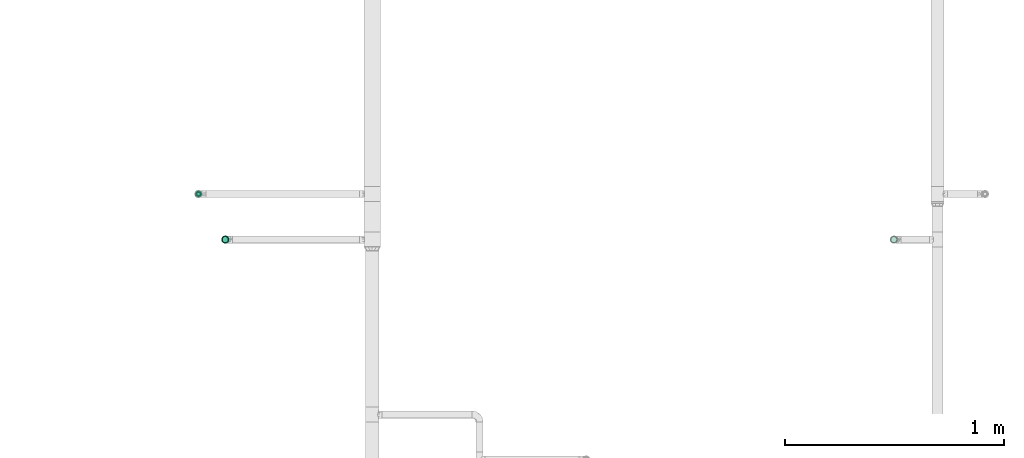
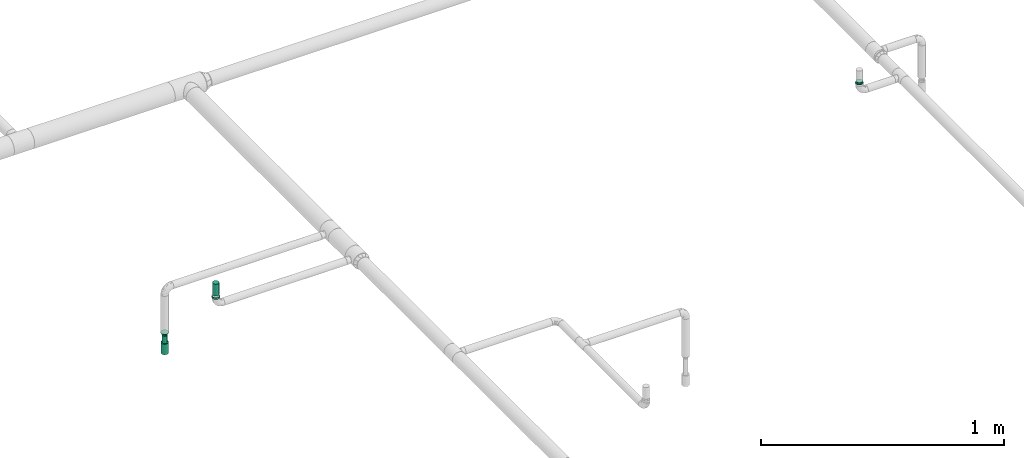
# One storey, part 31 of 43: 2 flow fittings, 2 flow segments, 2 flow terminals.
"""IFC2X3 building model written with IfcOpenShell, lengths in millimetres."""

from ifc_helpers import new_model, entity, si_unit, converted_unit, derived_unit, direction, frame, origin_with_axes, origin_2d_with_axis, place, context, subcontext, project, spatial, hollow_circle, extrude, open_shell, surface_model, source, transform, mapped, type_object, element, save


model = new_model("IFC2X3")

# Units and contexts
model_context = context("Model", 3, precision=0.01, world=frame((0.0, 4.29681676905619e-09, 0.0)), true_north=direction((4.01073788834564e-13, 1.0)))
plan_context = context("Plan", 3, precision=0.01, world=frame((0.0, 4.29681676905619e-09, 0.0)), true_north=direction((4.01073788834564e-13, 1.0)))
body_context = subcontext(model_context, "Body", "Model", "MODEL_VIEW")
ifc_project = project(units=[converted_unit("PLANEANGLEUNIT", "DEGREE", entity("IfcPositiveLengthMeasure", 0.0174532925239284), si_unit("PLANEANGLEUNIT", "RADIAN"), dimensions=[0, 0, 0, 0, 0, 0, 0]), si_unit("AREAUNIT", "SQUARE_METRE"), si_unit("LENGTHUNIT", "METRE", prefix="MILLI"), si_unit("MASSUNIT", "GRAM", prefix="KILO"), si_unit("POWERUNIT", "WATT"), si_unit("PRESSUREUNIT", "PASCAL"), si_unit("FORCEUNIT", "NEWTON", prefix="KILO"), si_unit("ELECTRICVOLTAGEUNIT", "VOLT"), si_unit("ELECTRICCURRENTUNIT", "AMPERE"), si_unit("THERMODYNAMICTEMPERATUREUNIT", "DEGREE_CELSIUS"), si_unit("TIMEUNIT", "SECOND"), si_unit("VOLUMEUNIT", "CUBIC_METRE"), derived_unit("LINEARVELOCITYUNIT", [(si_unit("LENGTHUNIT", "METRE"), 1), (si_unit("TIMEUNIT", "SECOND"), -1)]), derived_unit("VOLUMETRICFLOWRATEUNIT", [(si_unit("VOLUMEUNIT", "CUBIC_METRE"), 1), (si_unit("TIMEUNIT", "SECOND"), -1)]), derived_unit("THERMALTRANSMITTANCEUNIT", [(si_unit("POWERUNIT", "WATT"), 1), (si_unit("THERMODYNAMICTEMPERATUREUNIT", "KELVIN"), -1), (si_unit("AREAUNIT", "SQUARE_METRE"), -1)]), derived_unit("SOUNDPRESSUREUNIT", [(si_unit("PRESSUREUNIT", "PASCAL"), 1)])], contexts=[model_context, plan_context])

# Site, building, storey
site_placement = place(None, frame((0.0, -4.29681676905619e-09, 0.0), z_axis=(0.0, 0.0, 1.0), x_axis=(1.0, 0.0, 0.0)))
site = spatial("IfcSite", under=ifc_project, at=site_placement, CompositionType="ELEMENT")
building_placement = place(site_placement, frame((0.0, 4.29681676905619e-09, 0.0), z_axis=(0.0, 0.0, 1.0), x_axis=(1.0, 0.0, 0.0)))
building = spatial("IfcBuilding", under=site, at=building_placement, Name="mc-building", CompositionType="ELEMENT")
storey_placement = place(building_placement, frame((0.0, 0.0, 210900.0), z_axis=(0.0, 0.0, 1.0), x_axis=(1.0, 0.0, 0.0)))
storey = spatial("IfcBuildingStorey", under=building, at=storey_placement, Name="Nivå F", CompositionType="ELEMENT", Elevation=210900.0)

# Flow fittings
pipe_fitting_type = type_object("IfcPipeFittingType", Name="magi_pipe_fe_reducer_centric_short_NOR", PredefinedType="TRANSITION")
shared_shape_1 = source(origin_with_axes(), body_context, "Body", "SurfaceModel", [
    surface_model("IfcShellBasedSurfaceModel", [(-2.0, 11.9501, 11.9501), (-2.0, 0.0, 16.9), (-2.0, 4.37404, 16.32415), (-2.0, 8.45, 14.63583), (-2.0, 14.63583, 8.45), (-2.0, 16.32415, 4.37404), (-2.0, -16.32415, 4.37404), (-2.0, -8.45, 14.63583), (-2.0, -14.63583, 8.45), (-2.0, -11.9501, 11.9501), (-2.0, -4.37404, 16.32415), (-2.0, -16.32415, -4.37404), (-2.0, -16.9, 0.0), (-2.0, -8.45, -14.63583), (-2.0, 16.32415, -4.37404), (-2.0, 11.9501, -11.9501), (-2.0, 14.63583, -8.45), (-2.0, 8.45, -14.63583), (-2.0, 4.37404, -16.32415), (-2.0, 0.0, -16.9), (-2.0, -11.9501, -11.9501), (-2.0, -14.63583, -8.45), (-2.0, -4.37404, -16.32415), (-2.0, 16.9, 0.0), (0.0, 4.37404, -16.32415), (0.0, 8.45, -14.63583), (0.0, 11.9501, -11.9501), (0.0, 0.0, -16.9), (0.0, 16.32415, -4.37404), (0.0, 16.32415, 4.37404), (0.0, 14.63583, -8.45), (0.0, -8.45, -14.63583), (0.0, -4.37404, -16.32415), (0.0, -11.9501, -11.9501), (0.0, -16.32415, -4.37404), (0.0, -14.63583, -8.45), (0.0, -16.32415, 4.37404), (0.0, 16.9, 0.0), (0.0, 14.63583, 8.45), (0.0, 11.9501, 11.9501), (0.0, 4.37404, 16.32415), (0.0, 8.45, 14.63583), (0.0, 0.0, 16.9), (0.0, -14.63583, 8.45), (0.0, -16.9, 0.0), (0.0, -8.45, 14.63583), (0.0, -11.9501, 11.9501), (0.0, -4.37404, 16.32415), (9.0, 12.94341, -3.46818), (9.0, 3.46818, -12.94341), (9.0, 6.7, -11.60474), (9.0, 9.47523, -9.47523), (9.0, -6.7, -11.60474), (9.0, -12.94341, 3.46818), (9.0, 11.60474, -6.7), (9.0, 0.0, -13.4), (9.0, -3.46818, -12.94341), (9.0, -9.47523, -9.47523), (9.0, -12.94341, -3.46818), (9.0, -11.60474, -6.7), (9.0, 13.4, 0.0), (9.0, 12.94341, 3.46818), (9.0, 11.60474, 6.7), (9.0, 9.47523, 9.47523), (9.0, 0.0, 13.4), (9.0, 6.7, 11.60474), (9.0, 3.46818, 12.94341), (9.0, -6.7, 11.60474), (9.0, -9.47523, 9.47523), (9.0, -11.60474, 6.7), (9.0, -13.4, 0.0), (9.0, -3.46818, 12.94341), (7.0, 0.0, 13.4), (7.0, 3.46818, 12.94341), (7.0, 6.7, 11.60474), (7.0, -3.46818, 12.94341), (7.0, 9.47523, 9.47523), (7.0, 11.60474, 6.7), (7.0, 12.94341, 3.46818), (7.0, -12.94341, 3.46818), (7.0, -9.47523, 9.47523), (7.0, -6.7, 11.60474), (7.0, -11.60474, 6.7), (7.0, -12.94341, -3.46818), (7.0, -13.4, 0.0), (7.0, -6.7, -11.60474), (7.0, 12.94341, -3.46818), (7.0, 9.47523, -9.47523), (7.0, 11.60474, -6.7), (7.0, 6.7, -11.60474), (7.0, 3.46818, -12.94341), (7.0, -9.47523, -9.47523), (7.0, -11.60474, -6.7), (7.0, 0.0, -13.4), (7.0, -3.46818, -12.94341), (7.0, 13.4, 0.0), (0.0, 13.18758, -8.96258), (0.0, 14.42505, -5.97505), (7.0, 10.491, -7.02294), (7.0, 11.50677, -4.57065), (0.0, 15.66253, -2.98753), (7.0, 12.45339, -2.28533), (0.0, 2.98753, -15.66253), (0.0, 5.97505, -14.42505), (0.0, 8.96258, -13.18758), (7.0, 4.73762, -11.43761), (7.0, 7.10642, -10.45642), (7.0, 2.36881, -12.41881), (0.0, -14.42505, -5.97505), (7.0, -11.43761, -4.73762), (7.0, -12.41881, -2.36881), (7.0, -2.36881, -12.41881), (7.0, -10.45642, -7.10642), (0.0, -15.70614, -2.88224), (0.0, -13.18758, -8.96258), (7.0, -4.73762, -11.43761), (7.0, -7.10642, -10.45642), (0.0, -5.97505, -14.42505), (0.0, -2.98753, -15.66253), (0.0, -8.96258, -13.18758), (0.0, -13.18758, 8.96258), (0.0, -14.42505, 5.97505), (7.0, -10.491, 7.02294), (7.0, -11.50677, 4.57065), (0.0, -15.66253, 2.98753), (7.0, -12.45339, 2.28533), (0.0, -2.98753, 15.66253), (0.0, -5.97505, 14.42505), (0.0, -8.96258, 13.18758), (7.0, -4.73762, 11.43761), (7.0, -7.10642, 10.45642), (7.0, -2.36881, 12.41881), (0.0, 14.42505, 5.97505), (7.0, 11.43761, 4.73762), (7.0, 12.41881, 2.36881), (7.0, 2.36881, 12.41881), (7.0, 10.45642, 7.10642), (0.0, 15.70614, 2.88224), (0.0, 13.18758, 8.96258), (7.0, 4.73762, 11.43761), (7.0, 7.10642, 10.45642), (0.0, 5.97505, 14.42505), (0.0, 2.98753, 15.66253), (0.0, 8.96258, 13.18758)], [open_shell([[[0, 1, 2]], [[0, 2, 3]], [[0, 4, 5]], [[0, 5, 1]], [[1, 5, 6]], [[7, 8, 9]], [[7, 10, 1]], [[8, 7, 1]], [[1, 6, 8]], [[6, 11, 12]], [[6, 5, 13]], [[5, 14, 15]], [[15, 14, 16]], [[15, 17, 18]], [[13, 5, 15]], [[19, 15, 18]], [[11, 20, 21]], [[20, 11, 13]], [[13, 19, 22]], [[11, 6, 13]], [[15, 19, 13]], [[5, 23, 14]], [[24, 25, 26]], [[27, 24, 26]], [[26, 28, 29]], [[28, 26, 30]], [[26, 29, 31]], [[27, 31, 32]], [[27, 26, 31]], [[33, 34, 35]], [[34, 33, 31]], [[31, 36, 34]], [[29, 28, 37]], [[29, 38, 39]], [[29, 39, 40]], [[40, 36, 31]], [[40, 39, 41]], [[36, 40, 42]], [[42, 43, 36]], [[44, 34, 36]], [[43, 45, 46]], [[43, 42, 45]], [[45, 42, 47]], [[31, 29, 40]], [[11, 34, 12]], [[21, 35, 11]], [[31, 20, 13]], [[21, 20, 33]], [[32, 13, 22]], [[11, 35, 34]], [[34, 44, 12]], [[32, 31, 13]], [[33, 20, 31]], [[33, 35, 21]], [[27, 32, 22]], [[22, 19, 27]], [[18, 24, 19]], [[17, 25, 18]], [[30, 15, 16]], [[17, 15, 26]], [[28, 16, 14]], [[17, 26, 25]], [[25, 24, 18]], [[37, 28, 14]], [[30, 16, 28]], [[30, 26, 15]], [[23, 37, 14]], [[19, 24, 27]], [[5, 29, 23]], [[4, 38, 5]], [[41, 0, 3]], [[4, 0, 39]], [[40, 3, 2]], [[5, 38, 29]], [[29, 37, 23]], [[40, 41, 3]], [[39, 0, 41]], [[39, 38, 4]], [[42, 40, 2]], [[2, 1, 42]], [[10, 47, 1]], [[7, 45, 10]], [[43, 9, 8]], [[7, 9, 46]], [[36, 8, 6]], [[7, 46, 45]], [[45, 47, 10]], [[44, 36, 6]], [[43, 8, 36]], [[43, 46, 9]], [[12, 44, 6]], [[1, 47, 42]], [[33, 44, 27]], [[42, 39, 46]], [[39, 27, 44]], [[44, 46, 39]], [[48, 49, 50]], [[48, 50, 51]], [[52, 49, 53]], [[48, 51, 54]], [[49, 48, 53]], [[55, 52, 56]], [[55, 49, 52]], [[57, 58, 59]], [[53, 58, 57]], [[57, 52, 53]], [[48, 60, 53]], [[61, 62, 63]], [[61, 63, 64]], [[65, 66, 64]], [[65, 64, 63]], [[61, 64, 67]], [[53, 68, 69]], [[70, 58, 53]], [[53, 67, 68]], [[53, 61, 67]], [[71, 67, 64]], [[53, 60, 61]], [[72, 73, 74]], [[75, 72, 74]], [[76, 77, 78]], [[74, 76, 75]], [[78, 79, 76]], [[75, 80, 81]], [[80, 75, 79]], [[80, 79, 82]], [[75, 76, 79]], [[79, 83, 84]], [[79, 78, 85]], [[86, 87, 78]], [[87, 86, 88]], [[89, 85, 78]], [[78, 87, 89]], [[85, 89, 90]], [[83, 91, 92]], [[83, 79, 91]], [[85, 93, 94]], [[79, 85, 91]], [[90, 93, 85]], [[95, 86, 78]], [[83, 58, 84]], [[92, 59, 83]], [[52, 91, 85]], [[92, 91, 57]], [[56, 85, 94]], [[83, 59, 58]], [[58, 70, 84]], [[56, 52, 85]], [[57, 91, 52]], [[57, 59, 92]], [[55, 56, 94]], [[94, 93, 55]], [[90, 49, 93]], [[89, 50, 90]], [[54, 87, 88]], [[89, 87, 51]], [[48, 88, 86]], [[89, 51, 50]], [[50, 49, 90]], [[60, 48, 86]], [[54, 88, 48]], [[54, 51, 87]], [[95, 60, 86]], [[93, 49, 55]], [[78, 61, 95]], [[77, 62, 78]], [[65, 76, 74]], [[77, 76, 63]], [[66, 74, 73]], [[78, 62, 61]], [[61, 60, 95]], [[66, 65, 74]], [[63, 76, 65]], [[63, 62, 77]], [[64, 66, 73]], [[73, 72, 64]], [[75, 71, 72]], [[81, 67, 75]], [[69, 80, 82]], [[81, 80, 68]], [[53, 82, 79]], [[81, 68, 67]], [[67, 71, 75]], [[70, 53, 79]], [[69, 82, 53]], [[69, 68, 80]], [[84, 70, 79]], [[72, 71, 64]], [[72, 80, 95]], [[95, 76, 72]], [[80, 91, 95]], [[91, 93, 95]], [[87, 95, 93]], [[80, 84, 91]], [[26, 27, 39]], [[39, 37, 26]], [[96, 97, 98]], [[99, 100, 101]], [[37, 95, 101]], [[93, 27, 102]], [[103, 104, 105]], [[104, 26, 106]], [[87, 26, 96]], [[103, 107, 102]], [[108, 109, 110]], [[37, 101, 100]], [[27, 93, 111]], [[112, 33, 91]], [[110, 84, 113]], [[109, 114, 112]], [[33, 112, 114]], [[115, 116, 117]], [[115, 118, 111]], [[93, 102, 107]], [[116, 91, 119]], [[27, 111, 118]], [[97, 99, 98]], [[87, 96, 98]], [[100, 99, 97]], [[26, 87, 106]], [[105, 104, 106]], [[107, 103, 105]], [[84, 44, 113]], [[108, 110, 113]], [[114, 109, 108]], [[91, 33, 119]], [[117, 116, 119]], [[118, 115, 117]], [[120, 121, 122]], [[123, 124, 125]], [[44, 84, 125]], [[72, 42, 126]], [[127, 128, 129]], [[128, 46, 130]], [[80, 46, 120]], [[127, 131, 126]], [[132, 133, 134]], [[44, 125, 124]], [[42, 72, 135]], [[136, 39, 76]], [[134, 95, 137]], [[133, 138, 136]], [[39, 136, 138]], [[139, 140, 141]], [[139, 142, 135]], [[72, 126, 131]], [[140, 76, 143]], [[42, 135, 142]], [[121, 123, 122]], [[80, 120, 122]], [[124, 123, 121]], [[46, 80, 130]], [[129, 128, 130]], [[131, 127, 129]], [[95, 37, 137]], [[132, 134, 137]], [[138, 133, 132]], [[76, 39, 143]], [[141, 140, 143]], [[142, 139, 141]]])]),
])
flow_fitting_1_placement = place(storey_placement, frame((610166.97608, 695825.22261, 2702.99278), z_axis=(-0.996846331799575, 0.0788420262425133, 0.00901807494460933), x_axis=(0.00899000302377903, -0.00071100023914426, 0.999959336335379)))
element("IfcFlowFitting", 1, at=flow_fitting_1_placement, inside=storey, type_object=pipe_fitting_type, Name="magi_pipe_fe_reducer_centric_short_NOR", context=body_context, shape_type="MappedRepresentation", body=[
    mapped(shared_shape_1, transform((0.0, 0.0, 0.0), scale=1.0)),
])
shared_shape_2 = source(origin_with_axes(), body_context, "Body", "SurfaceModel", [
    surface_model("IfcShellBasedSurfaceModel", [(14.4, 5.35, -9.26647), (14.4, 0.0, -10.7), (14.4, 2.76936, -10.33541), (14.4, 10.33541, -2.76936), (14.4, 7.56604, -7.56604), (14.4, -5.35, -9.26647), (14.4, 9.26647, -5.35), (14.4, -9.26647, 5.35), (14.4, -2.76936, -10.33541), (14.4, -7.56604, -7.56604), (14.4, -10.33541, -2.76936), (14.4, -9.26647, -5.35), (14.4, 10.33541, 2.76936), (14.4, 10.7, 0.0), (14.4, 9.26647, 5.35), (14.4, 7.56604, 7.56604), (14.4, 2.76936, 10.33541), (14.4, 0.0, 10.7), (14.4, 5.35, 9.26647), (14.4, -10.33541, 2.76936), (14.4, -10.7, 0.0), (14.4, -7.56604, 7.56604), (14.4, -2.76936, 10.33541), (14.4, -5.35, 9.26647), (12.4, 0.0, 10.7), (12.4, 2.76936, 10.33541), (12.4, 5.35, 9.26647), (12.4, 7.56604, 7.56604), (12.4, 9.26647, 5.35), (12.4, 10.33541, 2.76936), (12.4, -10.33541, 2.76936), (12.4, 10.33541, -2.76936), (12.4, -2.76936, 10.33541), (12.4, -7.56604, 7.56604), (12.4, -5.35, 9.26647), (12.4, -9.26647, 5.35), (12.4, -10.33541, -2.76936), (12.4, -10.7, 0.0), (12.4, 2.76936, -10.33541), (12.4, 9.26647, -5.35), (12.4, 7.56604, -7.56604), (12.4, 5.35, -9.26647), (12.4, -7.56604, -7.56604), (12.4, -9.26647, -5.35), (12.4, -5.35, -9.26647), (12.4, 0.0, -10.7), (12.4, -2.76936, -10.33541), (12.4, 10.7, 0.0), (-2.0, 11.9501, 11.9501), (-2.0, 0.0, 16.9), (-2.0, 4.37404, 16.32415), (-2.0, 8.45, 14.63583), (-2.0, 14.63583, 8.45), (-2.0, 16.32415, 4.37404), (-2.0, -16.32415, 4.37404), (-2.0, -8.45, 14.63583), (-2.0, -14.63583, 8.45), (-2.0, -11.9501, 11.9501), (-2.0, -4.37404, 16.32415), (-2.0, -16.32415, -4.37404), (-2.0, -16.9, 0.0), (-2.0, -8.45, -14.63583), (-2.0, 16.32415, -4.37404), (-2.0, 11.9501, -11.9501), (-2.0, 14.63583, -8.45), (-2.0, 8.45, -14.63583), (-2.0, 4.37404, -16.32415), (-2.0, 0.0, -16.9), (-2.0, -11.9501, -11.9501), (-2.0, -14.63583, -8.45), (-2.0, -4.37404, -16.32415), (-2.0, 16.9, 0.0), (0.0, 4.37404, -16.32415), (0.0, 8.45, -14.63583), (0.0, 11.9501, -11.9501), (0.0, 0.0, -16.9), (0.0, 16.32415, -4.37404), (0.0, 16.32415, 4.37404), (0.0, 14.63583, -8.45), (0.0, -8.45, -14.63583), (0.0, -4.37404, -16.32415), (0.0, -11.9501, -11.9501), (0.0, -16.32415, -4.37404), (0.0, -14.63583, -8.45), (0.0, -16.32415, 4.37404), (0.0, 16.9, 0.0), (0.0, 14.63583, 8.45), (0.0, 11.9501, 11.9501), (0.0, 4.37404, 16.32415), (0.0, 8.45, 14.63583), (0.0, 0.0, 16.9), (0.0, -14.63583, 8.45), (0.0, -16.9, 0.0), (0.0, -8.45, 14.63583), (0.0, -11.9501, 11.9501), (0.0, -4.37404, 16.32415), (12.4, 9.3625, -2.31662), (0.0, 14.42505, -5.97505), (0.0, 15.66253, -2.98753), (12.4, -6.6875, -6.94985), (0.0, -13.18758, -8.96258), (0.0, 2.98753, -15.66253), (12.4, 0.0, -9.26647), (12.4, 6.6875, -6.94985), (0.0, 8.96258, -13.18758), (12.4, -9.3625, -2.31662), (0.0, -15.66253, -2.98753), (0.0, -14.42505, -5.97505), (0.0, 5.97505, -14.42505), (0.0, -2.98753, -15.66253), (0.0, -8.96258, -13.18758), (0.0, 13.18758, -8.96258), (12.4, 8.025, -4.63324), (12.4, -2.675, -9.26647), (12.4, 2.675, -9.26647), (0.0, -5.97505, -14.42505), (12.4, -8.025, -4.63324), (12.4, -9.3625, 2.31662), (0.0, -14.42505, 5.97505), (0.0, -15.66253, 2.98753), (12.4, 6.6875, 6.94985), (0.0, 13.18758, 8.96258), (0.0, -2.98753, 15.66253), (12.4, 0.0, 9.26647), (12.4, -6.6875, 6.94985), (0.0, -8.96258, 13.18758), (12.4, 9.3625, 2.31662), (0.0, 15.66253, 2.98753), (0.0, 14.42505, 5.97505), (0.0, -5.97505, 14.42505), (0.0, 2.98753, 15.66253), (0.0, 8.96258, 13.18758), (0.0, -13.18758, 8.96258), (12.4, -8.025, 4.63324), (12.4, 2.675, 9.26647), (12.4, -2.675, 9.26647), (0.0, 5.97505, 14.42505), (12.4, 8.025, 4.63324)], [open_shell([[[0, 1, 2]], [[3, 0, 4]], [[5, 0, 3]], [[3, 4, 6]], [[7, 5, 3]], [[1, 5, 8]], [[1, 0, 5]], [[9, 10, 11]], [[10, 9, 5]], [[5, 7, 10]], [[12, 3, 13]], [[12, 14, 15]], [[3, 15, 7]], [[16, 17, 15]], [[16, 15, 18]], [[7, 15, 17]], [[10, 19, 20]], [[7, 19, 10]], [[21, 22, 23]], [[22, 21, 7]], [[17, 22, 7]], [[3, 12, 15]], [[24, 25, 26]], [[24, 26, 27]], [[27, 28, 29]], [[24, 27, 30]], [[31, 30, 27]], [[32, 33, 34]], [[33, 32, 30]], [[33, 30, 35]], [[32, 24, 30]], [[30, 36, 37]], [[31, 27, 29]], [[36, 30, 31]], [[38, 31, 39]], [[40, 41, 38]], [[40, 38, 39]], [[36, 31, 38]], [[36, 42, 43]], [[42, 36, 44]], [[44, 45, 46]], [[44, 36, 38]], [[38, 45, 44]], [[31, 29, 47]], [[36, 10, 37]], [[43, 11, 36]], [[5, 42, 44]], [[43, 42, 9]], [[8, 44, 46]], [[36, 11, 10]], [[10, 20, 37]], [[8, 5, 44]], [[9, 42, 5]], [[9, 11, 43]], [[1, 8, 46]], [[46, 45, 1]], [[38, 2, 45]], [[41, 0, 38]], [[6, 40, 39]], [[41, 40, 4]], [[3, 39, 31]], [[41, 4, 0]], [[0, 2, 38]], [[13, 3, 31]], [[6, 39, 3]], [[6, 4, 40]], [[47, 13, 31]], [[45, 2, 1]], [[29, 12, 47]], [[28, 14, 29]], [[18, 27, 26]], [[28, 27, 15]], [[16, 26, 25]], [[29, 14, 12]], [[12, 13, 47]], [[16, 18, 26]], [[15, 27, 18]], [[15, 14, 28]], [[17, 16, 25]], [[25, 24, 17]], [[32, 22, 24]], [[34, 23, 32]], [[7, 33, 35]], [[34, 33, 21]], [[19, 35, 30]], [[34, 21, 23]], [[23, 22, 32]], [[20, 19, 30]], [[7, 35, 19]], [[7, 21, 33]], [[37, 20, 30]], [[24, 22, 17]], [[48, 49, 50]], [[48, 50, 51]], [[48, 52, 53]], [[48, 53, 49]], [[49, 53, 54]], [[55, 56, 57]], [[55, 58, 49]], [[56, 55, 49]], [[49, 54, 56]], [[54, 59, 60]], [[54, 53, 61]], [[53, 62, 63]], [[63, 62, 64]], [[63, 65, 66]], [[61, 53, 63]], [[67, 63, 66]], [[59, 68, 69]], [[68, 59, 61]], [[61, 67, 70]], [[59, 54, 61]], [[63, 67, 61]], [[53, 71, 62]], [[72, 73, 74]], [[75, 72, 74]], [[74, 76, 77]], [[76, 74, 78]], [[74, 77, 79]], [[75, 79, 80]], [[75, 74, 79]], [[81, 82, 83]], [[82, 81, 79]], [[79, 84, 82]], [[77, 76, 85]], [[77, 86, 87]], [[77, 87, 88]], [[88, 84, 79]], [[88, 87, 89]], [[84, 88, 90]], [[90, 91, 84]], [[92, 82, 84]], [[91, 93, 94]], [[91, 90, 93]], [[93, 90, 95]], [[79, 77, 88]], [[59, 82, 60]], [[69, 83, 59]], [[79, 68, 61]], [[69, 68, 81]], [[80, 61, 70]], [[59, 83, 82]], [[82, 92, 60]], [[80, 79, 61]], [[81, 68, 79]], [[81, 83, 69]], [[75, 80, 70]], [[70, 67, 75]], [[66, 72, 67]], [[65, 73, 66]], [[78, 63, 64]], [[65, 63, 74]], [[76, 64, 62]], [[65, 74, 73]], [[73, 72, 66]], [[85, 76, 62]], [[78, 64, 76]], [[78, 74, 63]], [[71, 85, 62]], [[67, 72, 75]], [[53, 77, 71]], [[52, 86, 53]], [[89, 48, 51]], [[52, 48, 87]], [[88, 51, 50]], [[53, 86, 77]], [[77, 85, 71]], [[88, 89, 51]], [[87, 48, 89]], [[87, 86, 52]], [[90, 88, 50]], [[50, 49, 90]], [[58, 95, 49]], [[55, 93, 58]], [[91, 57, 56]], [[55, 57, 94]], [[84, 56, 54]], [[55, 94, 93]], [[93, 95, 58]], [[92, 84, 54]], [[91, 56, 84]], [[91, 94, 57]], [[60, 92, 54]], [[49, 95, 90]], [[26, 34, 47]], [[47, 34, 44]], [[44, 41, 47]], [[44, 34, 37]], [[90, 87, 92]], [[92, 94, 90]], [[87, 74, 92]], [[75, 92, 74]], [[81, 92, 75]], [[74, 87, 85]], [[96, 97, 98]], [[81, 99, 100]], [[101, 102, 75]], [[98, 85, 47]], [[74, 103, 104]], [[104, 103, 41]], [[105, 106, 107]], [[41, 108, 104]], [[102, 109, 75]], [[110, 99, 81]], [[47, 96, 98]], [[103, 111, 112]], [[109, 102, 113]], [[37, 92, 106]], [[102, 101, 114]], [[110, 115, 44]], [[96, 112, 97]], [[107, 116, 105]], [[37, 106, 105]], [[113, 115, 109]], [[44, 115, 113]], [[116, 107, 100]], [[108, 41, 114]], [[111, 103, 74]], [[111, 97, 112]], [[99, 110, 44]], [[116, 100, 99]], [[101, 108, 114]], [[117, 118, 119]], [[87, 120, 121]], [[122, 123, 90]], [[119, 92, 37]], [[94, 124, 125]], [[125, 124, 34]], [[126, 127, 128]], [[34, 129, 125]], [[123, 130, 90]], [[131, 120, 87]], [[37, 117, 119]], [[124, 132, 133]], [[130, 123, 134]], [[47, 85, 127]], [[123, 122, 135]], [[131, 136, 26]], [[117, 133, 118]], [[128, 137, 126]], [[47, 127, 126]], [[134, 136, 130]], [[26, 136, 134]], [[137, 128, 121]], [[129, 34, 135]], [[132, 124, 94]], [[132, 118, 133]], [[120, 131, 26]], [[137, 121, 120]], [[122, 129, 135]]])]),
])
flow_fitting_2_placement = place(storey_placement, frame((606983.98955, 696033.67925, 2434.35200000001), z_axis=(0.0, 1.0, 0.0), x_axis=(0.0, 0.0, -1.0)))
element("IfcFlowFitting", 2, at=flow_fitting_2_placement, inside=storey, type_object=pipe_fitting_type, Name="magi_pipe_fe_reducer_centric_short_NOR", context=body_context, shape_type="MappedRepresentation", body=[
    mapped(shared_shape_2, transform((0.0, 0.0, 0.0), scale=1.0)),
])

# Flow segments
pipe_segment_type = type_object("IfcPipeSegmentType", Name="Stålrør normaltykke", PredefinedType="RIGIDSEGMENT")
shared_shape_3 = source(origin_with_axes(), body_context, "Body", "SweptSolid", [
    extrude(hollow_circle(Radius=10.7, WallThickness=2.0, at=origin_2d_with_axis()), frame((0.0, 0.0, 0.0), z_axis=(1.0, 0.0, 0.0), x_axis=(0.0, 1.0, 0.0)), (0.0, 0.0, 1.0), 39.5),
])
flow_segment_1_placement = place(storey_placement, frame((606983.98955, 696033.67925, 2421.95199999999), z_axis=(0.0, 1.0, 0.0), x_axis=(0.0, 0.0, -1.0)))
element("IfcFlowSegment", 3, at=flow_segment_1_placement, inside=storey, type_object=pipe_segment_type, Name="Stålrør normaltykke", context=body_context, shape_type="MappedRepresentation", body=[
    mapped(shared_shape_3, transform((0.0, 0.0, 0.0), scale=1.0)),
])
shared_shape_4 = source(origin_with_axes(), body_context, "Body", "SweptSolid", [
    extrude(hollow_circle(Radius=16.9, WallThickness=2.0, at=origin_2d_with_axis()), frame((0.0, 0.0, 0.0), z_axis=(1.0, 0.0, 0.0), x_axis=(0.0, 1.0, 0.0)), (0.0, 0.0, 1.0), 9.2),
])
flow_segment_2_placement = place(storey_placement, frame((607106.89343, 695825.22914, 2693.79999999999), z_axis=(-0.0788449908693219, -0.996886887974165, 2.98917911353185e-08), x_axis=(0.00899000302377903, -0.00071100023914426, 0.999959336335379)))
element("IfcFlowSegment", 4, at=flow_segment_2_placement, inside=storey, type_object=pipe_segment_type, Name="Stålrør normaltykke", context=body_context, shape_type="MappedRepresentation", body=[
    mapped(shared_shape_4, transform((0.0, 0.0, 0.0), scale=1.0)),
])

# Flow terminals
fire_suppression_terminal_type_1 = type_object("IfcFireSuppressionTerminalType", Name="SU-20-K115-68DGR-STD", PredefinedType="NOTDEFINED")
shared_shape_5 = source(origin_with_axes(), body_context, "Body", "SurfaceModel", [
    surface_model("IfcShellBasedSurfaceModel", [(3.62347, -13.52296, 59.0), (-3.62347, -13.52296, 59.0), (0.0, -14.0, 59.0), (12.12436, -7.0, 59.0), (7.0, -12.12436, 59.0), (-9.89949, -9.89949, 59.0), (13.52296, 3.62347, 59.0), (9.89949, -9.89949, 59.0), (-7.0, -12.12436, 59.0), (-12.12436, -7.0, 59.0), (-14.0, 0.0, 59.0), (-13.52296, -3.62347, 59.0), (-13.52296, 3.62347, 59.0), (13.52296, -3.62347, 59.0), (14.0, 0.0, 59.0), (9.89949, 9.89949, 59.0), (12.12436, 7.0, 59.0), (7.0, 12.12436, 59.0), (3.62347, 13.52296, 59.0), (-9.89949, 9.89949, 59.0), (-12.12436, 7.0, 59.0), (0.0, 14.0, 59.0), (-3.62347, 13.52296, 59.0), (-7.0, 12.12436, 59.0), (9.89949, 9.89949, 0.0), (0.0, 14.0, 0.0), (3.62347, 13.52296, 0.0), (7.0, 12.12436, 0.0), (12.12436, 7.0, 0.0), (13.52296, 3.62347, 0.0), (-9.89949, -9.89949, 0.0), (-3.62347, 13.52296, 0.0), (-9.89949, 9.89949, 0.0), (-7.0, 12.12436, 0.0), (-13.52296, 3.62347, 0.0), (-12.12436, 7.0, 0.0), (-14.0, 0.0, 0.0), (3.62347, -13.52296, 0.0), (14.0, 0.0, 0.0), (13.52296, -3.62347, 0.0), (12.12436, -7.0, 0.0), (7.0, -12.12436, 0.0), (9.89949, -9.89949, 0.0), (-12.12436, -7.0, 0.0), (-13.52296, -3.62347, 0.0), (-3.62347, -13.52296, 0.0), (-7.0, -12.12436, 0.0), (0.0, -14.0, 0.0)], [open_shell([[[0, 1, 2]], [[3, 0, 4]], [[5, 0, 6]], [[3, 4, 7]], [[6, 0, 3]], [[1, 5, 8]], [[1, 0, 5]], [[9, 10, 11]], [[10, 9, 5]], [[5, 12, 10]], [[3, 13, 14]], [[12, 5, 6]], [[15, 6, 16]], [[15, 17, 18]], [[15, 18, 6]], [[12, 6, 18]], [[12, 19, 20]], [[19, 12, 21]], [[19, 22, 23]], [[22, 19, 21]], [[12, 18, 21]], [[6, 3, 14]], [[24, 25, 26]], [[24, 26, 27]], [[24, 28, 29]], [[24, 29, 25]], [[30, 31, 25]], [[31, 32, 33]], [[32, 31, 34]], [[32, 34, 35]], [[36, 34, 30]], [[30, 34, 31]], [[25, 29, 37]], [[38, 39, 40]], [[37, 29, 40]], [[41, 37, 40]], [[41, 40, 42]], [[25, 37, 30]], [[36, 43, 44]], [[30, 43, 36]], [[30, 45, 46]], [[30, 37, 45]], [[47, 45, 37]], [[40, 29, 38]], [[11, 44, 43]], [[30, 9, 43]], [[8, 46, 45]], [[30, 46, 5]], [[1, 45, 47]], [[44, 10, 36]], [[44, 11, 10]], [[43, 9, 11]], [[30, 5, 9]], [[8, 5, 46]], [[45, 1, 8]], [[47, 2, 1]], [[0, 37, 41]], [[42, 4, 41]], [[3, 40, 39]], [[42, 40, 7]], [[13, 39, 38]], [[37, 0, 2]], [[41, 4, 0]], [[42, 7, 4]], [[40, 3, 7]], [[13, 3, 39]], [[38, 14, 13]], [[37, 2, 47]], [[6, 38, 29]], [[17, 27, 26]], [[27, 15, 24]], [[18, 26, 25]], [[29, 16, 6]], [[6, 14, 38]], [[28, 15, 16]], [[28, 24, 15]], [[15, 27, 17]], [[26, 18, 17]], [[28, 16, 29]], [[25, 21, 18]], [[22, 31, 33]], [[32, 23, 33]], [[20, 35, 34]], [[32, 35, 19]], [[12, 34, 36]], [[31, 22, 21]], [[33, 23, 22]], [[32, 19, 23]], [[35, 20, 19]], [[12, 20, 34]], [[36, 10, 12]], [[31, 21, 25]]])]),
])
flow_terminal_1_placement = place(storey_placement, frame((607107.03901, 695825.21763, 2709.99249999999), z_axis=(0.0, 0.0, 1.0), x_axis=(0.0, -1.0, 0.0)))
element("IfcFlowTerminal", 5, at=flow_terminal_1_placement, inside=storey, type_object=fire_suppression_terminal_type_1, Name="SU-20-K115-68DGR-STD", context=body_context, shape_type="MappedRepresentation", body=[
    mapped(shared_shape_5, transform((0.0, 0.0, 0.0), scale=1.0)),
])
fire_suppression_terminal_type_2 = type_object("IfcFireSuppressionTerminalType", Name="SP-15-K80-68DGR-STD-HIMLING", PredefinedType="NOTDEFINED")
shared_shape_6 = source(origin_with_axes(), body_context, "Body", "SurfaceModel", [
    surface_model("IfcShellBasedSurfaceModel", [(4.1411, -15.45481, 53.0), (8.0, -13.85641, 53.0), (11.31371, -11.31371, 53.0), (-8.0, -13.85641, 53.0), (15.45481, -4.1411, 53.0), (16.0, 0.0, 53.0), (13.85641, -8.0, 53.0), (0.0, -16.0, 53.0), (-4.1411, -15.45481, 53.0), (-13.85641, -8.0, 53.0), (-11.31371, -11.31371, 53.0), (-15.45481, -4.1411, 53.0), (15.45481, 4.1411, 53.0), (13.85641, 8.0, 53.0), (11.31371, 11.31371, 53.0), (-4.1411, 15.45481, 53.0), (8.0, 13.85641, 53.0), (4.1411, 15.45481, 53.0), (0.0, 16.0, 53.0), (-13.85641, 8.0, 53.0), (-15.45481, 4.1411, 53.0), (-16.0, 0.0, 53.0), (-11.31371, 11.31371, 53.0), (-8.0, 13.85641, 53.0), (0.0, 16.0, 0.0), (4.1411, 15.45481, 0.0), (8.0, 13.85641, 0.0), (-4.1411, 15.45481, 0.0), (11.31371, 11.31371, 0.0), (13.85641, 8.0, 0.0), (15.45481, 4.1411, 0.0), (-15.45481, -4.1411, 0.0), (-11.31371, 11.31371, 0.0), (-8.0, 13.85641, 0.0), (-13.85641, 8.0, 0.0), (-15.45481, 4.1411, 0.0), (-16.0, 0.0, 0.0), (4.1411, -15.45481, 0.0), (16.0, 0.0, 0.0), (15.45481, -4.1411, 0.0), (13.85641, -8.0, 0.0), (11.31371, -11.31371, 0.0), (8.0, -13.85641, 0.0), (-8.0, -13.85641, 0.0), (-13.85641, -8.0, 0.0), (-11.31371, -11.31371, 0.0), (0.0, -16.0, 0.0), (-4.1411, -15.45481, 0.0)], [open_shell([[[0, 1, 2]], [[3, 0, 2]], [[4, 5, 2]], [[4, 2, 6]], [[3, 2, 5]], [[7, 3, 8]], [[7, 0, 3]], [[3, 9, 10]], [[9, 3, 11]], [[5, 11, 3]], [[5, 12, 11]], [[12, 13, 14]], [[15, 12, 14]], [[16, 17, 18]], [[14, 16, 15]], [[18, 15, 16]], [[11, 19, 20]], [[21, 11, 20]], [[22, 15, 23]], [[15, 22, 19]], [[19, 11, 15]], [[11, 12, 15]], [[24, 25, 26]], [[27, 24, 26]], [[28, 29, 30]], [[27, 26, 28]], [[27, 28, 31]], [[27, 32, 33]], [[32, 27, 34]], [[34, 31, 35]], [[31, 34, 27]], [[35, 31, 36]], [[28, 30, 31]], [[37, 38, 39]], [[37, 39, 40]], [[41, 42, 37]], [[41, 37, 40]], [[38, 37, 43]], [[44, 43, 45]], [[43, 44, 31]], [[43, 46, 47]], [[43, 31, 38]], [[37, 46, 43]], [[38, 31, 30]], [[11, 31, 44]], [[45, 9, 44]], [[3, 43, 47]], [[45, 43, 10]], [[8, 47, 46]], [[31, 21, 36]], [[31, 11, 21]], [[44, 9, 11]], [[45, 10, 9]], [[3, 10, 43]], [[47, 8, 3]], [[46, 7, 8]], [[0, 37, 42]], [[41, 1, 42]], [[6, 40, 39]], [[41, 40, 2]], [[4, 39, 38]], [[37, 0, 7]], [[42, 1, 0]], [[41, 2, 1]], [[40, 6, 2]], [[4, 6, 39]], [[38, 5, 4]], [[37, 7, 46]], [[12, 38, 30]], [[13, 30, 29]], [[16, 26, 25]], [[17, 25, 24]], [[30, 13, 12]], [[12, 5, 38]], [[28, 14, 13]], [[28, 26, 14]], [[14, 26, 16]], [[25, 17, 16]], [[28, 13, 29]], [[24, 18, 17]], [[15, 27, 33]], [[32, 23, 33]], [[19, 34, 35]], [[32, 34, 22]], [[20, 35, 36]], [[27, 15, 18]], [[33, 23, 15]], [[32, 22, 23]], [[34, 19, 22]], [[20, 19, 35]], [[36, 21, 20]], [[27, 18, 24]]])]),
])
flow_terminal_2_placement = place(storey_placement, frame((606983.98955, 696033.67925, 2385.5), z_axis=(0.0, 0.0, -1.0), x_axis=(-1.0, 0.0, 0.0)))
element("IfcFlowTerminal", 6, at=flow_terminal_2_placement, inside=storey, type_object=fire_suppression_terminal_type_2, Name="SP-15-K80-68DGR-STD-HIMLING", context=body_context, shape_type="MappedRepresentation", body=[
    mapped(shared_shape_6, transform((0.0, 0.0, 0.0), scale=1.0)),
])

save(model, "model.ifc")
